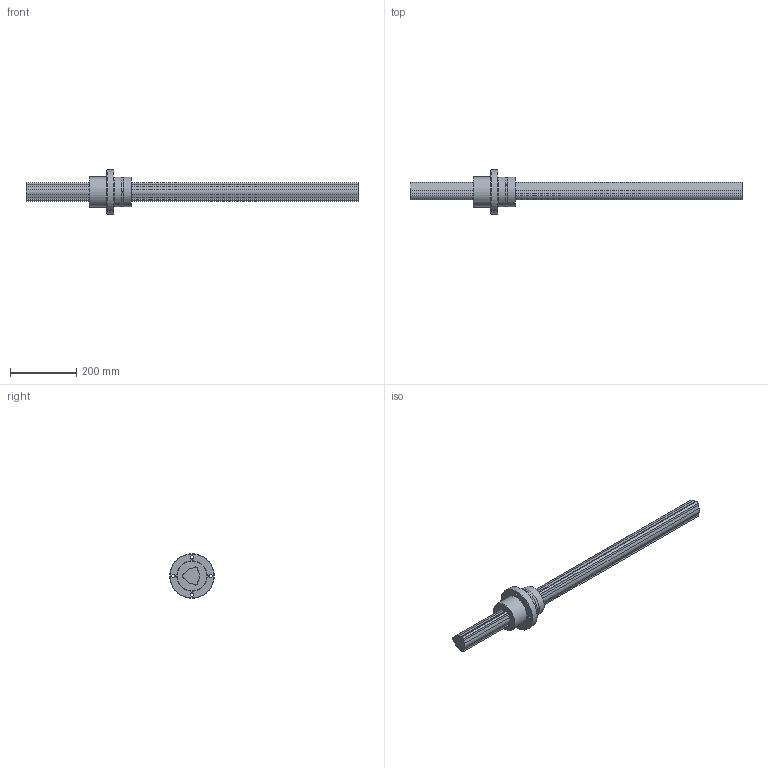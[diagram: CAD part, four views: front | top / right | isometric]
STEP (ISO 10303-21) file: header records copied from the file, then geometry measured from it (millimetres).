
FILE_DESCRIPTION(/* description */ ('STEP AP214'),/* implementation_level */ '2;1');
FILE_NAME(/* name */ 'LBR60+1000L(127190.50)',/* time_stamp */ '2024-09-04T13:09:09+02:00',/* author */ ('License CC BY-ND 4.0'),/* organization */ ('CADENAS'),/* preprocessor_version */ 'ST-DEVELOPER v19.3',/* originating_system */ 'PARTsolutions',/* authorisation */ ' ');
FILE_SCHEMA (('AUTOMOTIVE_DESIGN {1 0 10303 214 3 1 1}'));
Length unit declared in the file: millimetre
Products named in the file (3): LBR60+1000L(127190.50); LBR6011000 Spline Shaft; LBR60 Nut
Assembly tree (2 placements, depth 2):
  LBR60+1000L(127190.50)
    LBR6011000 Spline Shaft
    LBR60 Nut
Bounding box: 1000 x 134.5 x 134.5 mm (x, y, z)
Volume: 2662965.8 mm3; surface area: 266724.6 mm2
Topology: 2 solids, 2 shells, 63 faces, 158 edges, 104 vertices
Faces by surface type: cylinder 35, plane 21, torus 5, cone 2
Full cylindrical faces by diameter (mm): 4 x3, 11 x4, 90 x2, 90.5 x1, 134.5 x1
Entity records: 1917 total; most frequent: CARTESIAN_POINT 343, DIRECTION 338, ORIENTED_EDGE 272, AXIS2_PLACEMENT_3D 139, EDGE_CURVE 136, VERTEX_POINT 100, EDGE_LOOP 96, FACE_BOUND 96
